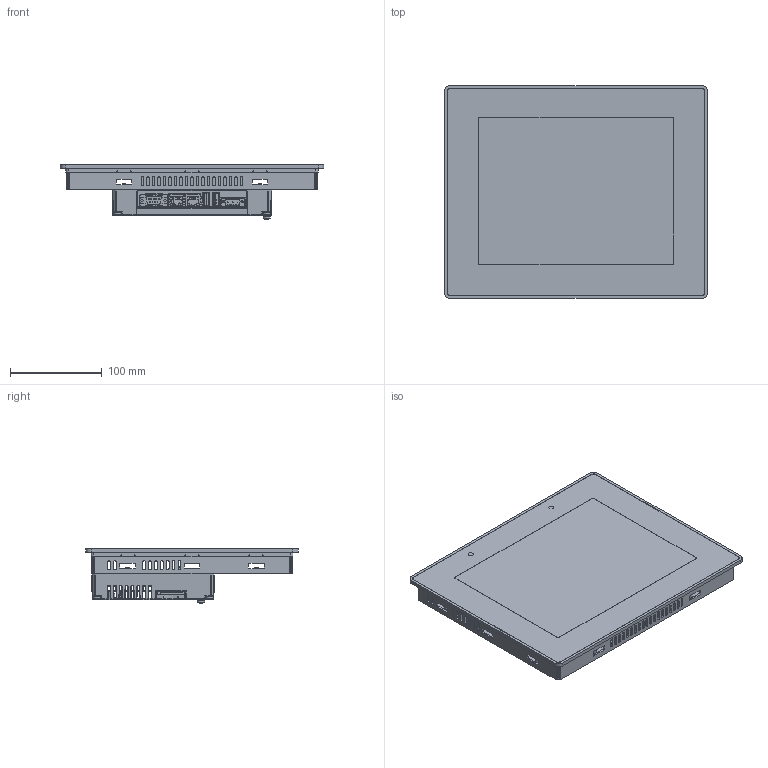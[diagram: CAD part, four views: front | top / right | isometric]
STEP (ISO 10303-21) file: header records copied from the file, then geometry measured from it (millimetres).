
FILE_DESCRIPTION (( 'STEP AP203' ), '1' );
FILE_NAME ('HM510.STEP', '2014-02-12T13:14:20', ( '' ), ( '' ), 'SwSTEP 2.0', 'SolidWorks 2010', '' );
FILE_SCHEMA (( 'CONFIG_CONTROL_DESIGN' ));
Products named in the file (1): HM510
Bounding box: 287 x 232 x 59.39 mm (x, y, z)
Surface area: 383194.7 mm2 (no closed solid volume)
Topology: 0 solids, 129 shells, 1718 faces, 8700 edges, 6831 vertices
Faces by surface type: plane 807, cylinder 612, torus 129, cone 97, bspline 54, sphere 19
Entity records: 89286 total; most frequent: CARTESIAN_POINT 23017, DIRECTION 13599, ORIENTED_EDGE 11482, EDGE_CURVE 8699, VERTEX_POINT 6831, LINE 5717, VECTOR 5717, AXIS2_PLACEMENT_3D 3941
